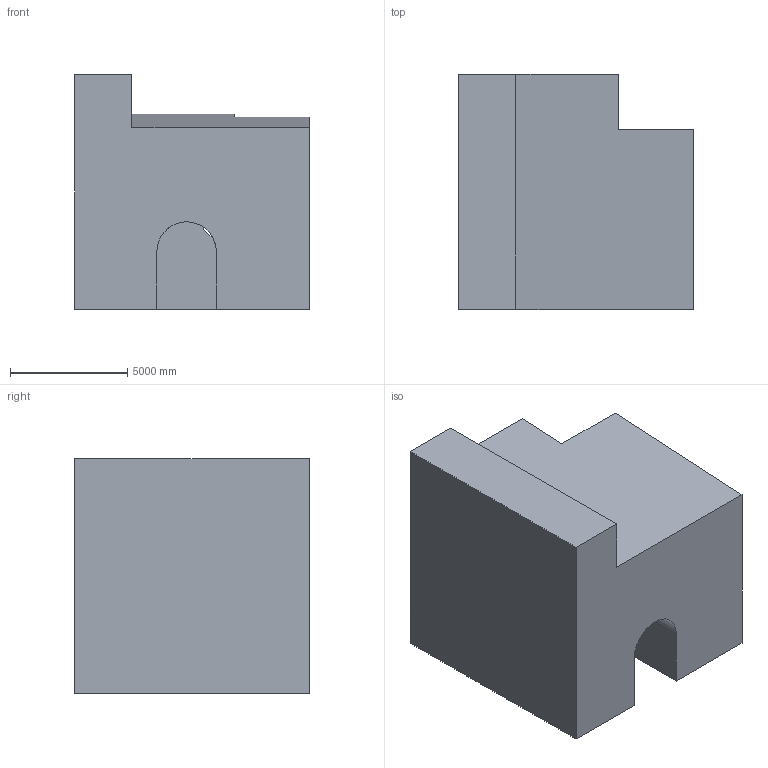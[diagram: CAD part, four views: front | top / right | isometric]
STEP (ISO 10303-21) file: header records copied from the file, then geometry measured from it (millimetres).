
FILE_DESCRIPTION (( 'STEP AP203' ), '1' );
FILE_NAME ('396.STEP', '2022-07-29T11:07:07', ( 'user' ), ( '' ), 'SwSTEP 2.0', 'SolidWorks 2021', '' );
FILE_SCHEMA (( 'CONFIG_CONTROL_DESIGN' ));
Length unit declared in the file: centimetre
Products named in the file (1): 396
Bounding box: 10000 x 10000 x 10000 mm (x, y, z)
Volume: 655217946386.3 mm3; surface area: 648550719.6 mm2
Topology: 1 solids, 1 shells, 18 faces, 54 edges, 36 vertices
Faces by surface type: plane 15, cylinder 3
Entity records: 691 total; most frequent: CARTESIAN_POINT 109, ORIENTED_EDGE 108, DIRECTION 104, EDGE_CURVE 54, LINE 42, VECTOR 42, VERTEX_POINT 36, AXIS2_PLACEMENT_3D 31
